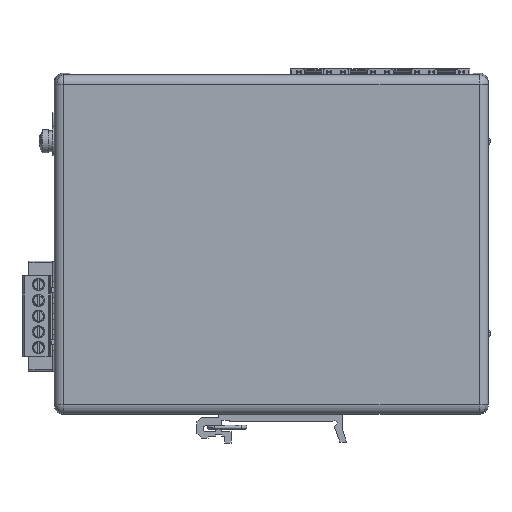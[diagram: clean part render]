
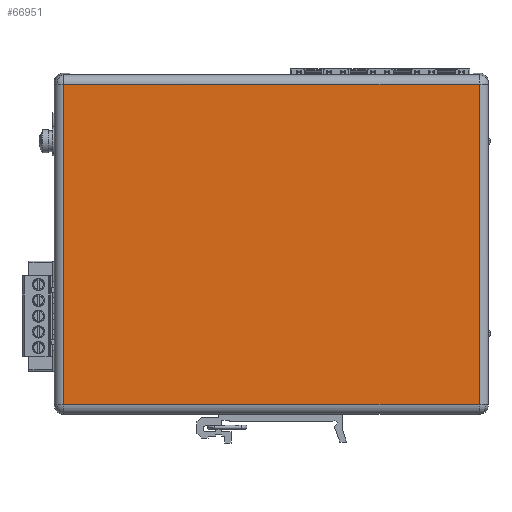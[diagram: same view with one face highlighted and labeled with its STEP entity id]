
A CAD part, front view. The second image highlights one B-rep face of the part: STEP entity #66951.
In plain terms, the highlighted planar face has unit normal (0, -1, 0).
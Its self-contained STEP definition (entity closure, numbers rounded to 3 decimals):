
#66872=CARTESIAN_POINT('',(-67.,-26.,51.397));
#66873=VERTEX_POINT('',#66872);
#66903=CARTESIAN_POINT('',(-67.,-26.,-52.));
#66904=VERTEX_POINT('',#66903);
#66912=CARTESIAN_POINT('',(-67.,-26.,51.397));
#66913=DIRECTION('',(0.,0.,-1.));
#66914=VECTOR('',#66913,103.397);
#66915=LINE('',#66912,#66914);
#66916=EDGE_CURVE('',#66873,#66904,#66915,.T.);
#66921=CARTESIAN_POINT('',(-70.,-26.,-55.));
#66922=DIRECTION('',(0.,-1.,0.));
#66923=DIRECTION('',(0.,0.,-1.));
#66924=AXIS2_PLACEMENT_3D('',#66921,#66922,#66923);
#66925=PLANE('',#66924);
#66926=CARTESIAN_POINT('',(67.,-26.,51.397));
#66927=VERTEX_POINT('',#66926);
#66928=CARTESIAN_POINT('',(67.,-26.,51.397));
#66929=DIRECTION('',(-1.,-0.,0.));
#66930=VECTOR('',#66929,134.);
#66931=LINE('',#66928,#66930);
#66932=EDGE_CURVE('',#66927,#66873,#66931,.T.);
#66933=ORIENTED_EDGE('',*,*,#66932,.T.);
#66934=ORIENTED_EDGE('',*,*,#66916,.T.);
#66935=CARTESIAN_POINT('',(67.,-26.,-52.));
#66936=VERTEX_POINT('',#66935);
#66937=CARTESIAN_POINT('',(-67.,-26.,-52.));
#66938=DIRECTION('',(1.,0.,-0.));
#66939=VECTOR('',#66938,134.);
#66940=LINE('',#66937,#66939);
#66941=EDGE_CURVE('',#66904,#66936,#66940,.T.);
#66942=ORIENTED_EDGE('',*,*,#66941,.T.);
#66943=CARTESIAN_POINT('',(67.,-26.,-52.));
#66944=DIRECTION('',(-0.,-0.,1.));
#66945=VECTOR('',#66944,103.397);
#66946=LINE('',#66943,#66945);
#66947=EDGE_CURVE('',#66936,#66927,#66946,.T.);
#66948=ORIENTED_EDGE('',*,*,#66947,.T.);
#66949=EDGE_LOOP('',(#66933,#66934,#66942,#66948));
#66950=FACE_BOUND('',#66949,.T.);
#66951=ADVANCED_FACE('',(#66950),#66925,.T.);
